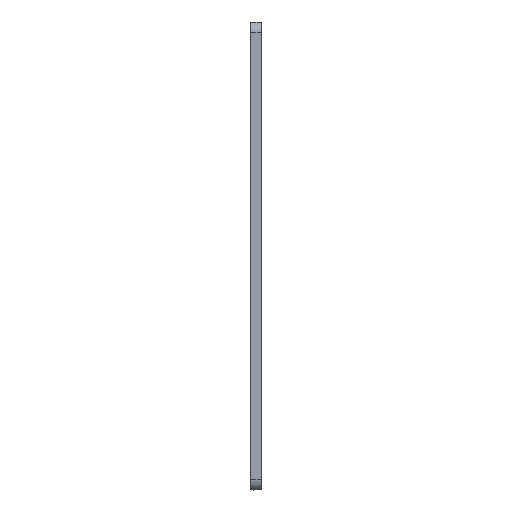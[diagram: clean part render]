
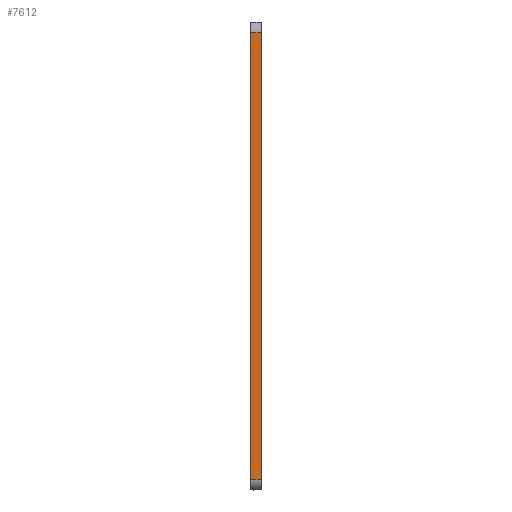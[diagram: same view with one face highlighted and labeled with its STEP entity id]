
A CAD part, left-side view. The second image highlights one B-rep face of the part: STEP entity #7612.
In plain terms, the highlighted planar face has unit normal (-1, 0, 0).
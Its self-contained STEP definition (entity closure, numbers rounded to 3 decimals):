
#46 = ORIENTED_EDGE ( 'NONE', *, *, #9616, .T. ) ;
#209 = CARTESIAN_POINT ( 'NONE',  ( 0.6, 0., -1.6 ) ) ;
#225 = CARTESIAN_POINT ( 'NONE',  ( 0.6, 1., -43.4 ) ) ;
#387 = EDGE_LOOP ( 'NONE', ( #46, #1586, #8426, #1019 ) ) ;
#492 = FACE_OUTER_BOUND ( 'NONE', #387, .T. ) ;
#555 = DIRECTION ( 'NONE',  ( 0., 0., -1. ) ) ;
#750 = CARTESIAN_POINT ( 'NONE',  ( 0.6, 1., -1.6 ) ) ;
#1019 = ORIENTED_EDGE ( 'NONE', *, *, #8744, .T. ) ;
#1120 = LINE ( 'NONE', #2812, #3420 ) ;
#1548 = CARTESIAN_POINT ( 'NONE',  ( 0.6, 1., -43.4 ) ) ;
#1586 = ORIENTED_EDGE ( 'NONE', *, *, #2929, .F. ) ;
#1942 = AXIS2_PLACEMENT_3D ( 'NONE', #3096, #5647, #555 ) ;
#1986 = VECTOR ( 'NONE', #3167, 1000. ) ;
#2615 = VERTEX_POINT ( 'NONE', #750 ) ;
#2762 = DIRECTION ( 'NONE',  ( 0., 0., 1. ) ) ;
#2812 = CARTESIAN_POINT ( 'NONE',  ( 0.6, 0., -43.4 ) ) ;
#2929 = EDGE_CURVE ( 'NONE', #2615, #8001, #6565, .T. ) ;
#3096 = CARTESIAN_POINT ( 'NONE',  ( 0.6, 1., -43.4 ) ) ;
#3167 = DIRECTION ( 'NONE',  ( 0., -1., 0. ) ) ;
#3168 = VERTEX_POINT ( 'NONE', #225 ) ;
#3262 = LINE ( 'NONE', #1548, #9696 ) ;
#3367 = DIRECTION ( 'NONE',  ( 0., -1., 0. ) ) ;
#3420 = VECTOR ( 'NONE', #2762, 1000. ) ;
#5647 = DIRECTION ( 'NONE',  ( 1., 0., 0. ) ) ;
#6565 = LINE ( 'NONE', #8927, #1986 ) ;
#6880 = DIRECTION ( 'NONE',  ( 0., 0., 1. ) ) ;
#7612 = ADVANCED_FACE ( 'NONE', ( #492 ), #9919, .F. ) ;
#7741 = EDGE_CURVE ( 'NONE', #3168, #2615, #3262, .T. ) ;
#7798 = CARTESIAN_POINT ( 'NONE',  ( 0.6, 0., -43.4 ) ) ;
#8001 = VERTEX_POINT ( 'NONE', #209 ) ;
#8426 = ORIENTED_EDGE ( 'NONE', *, *, #7741, .F. ) ;
#8744 = EDGE_CURVE ( 'NONE', #3168, #10546, #10307, .T. ) ;
#8927 = CARTESIAN_POINT ( 'NONE',  ( 0.6, 1., -1.6 ) ) ;
#9326 = VECTOR ( 'NONE', #3367, 1000. ) ;
#9616 = EDGE_CURVE ( 'NONE', #10546, #8001, #1120, .T. ) ;
#9696 = VECTOR ( 'NONE', #6880, 1000. ) ;
#9919 = PLANE ( 'NONE',  #1942 ) ;
#10134 = CARTESIAN_POINT ( 'NONE',  ( 0.6, 1., -43.4 ) ) ;
#10307 = LINE ( 'NONE', #10134, #9326 ) ;
#10546 = VERTEX_POINT ( 'NONE', #7798 ) ;
